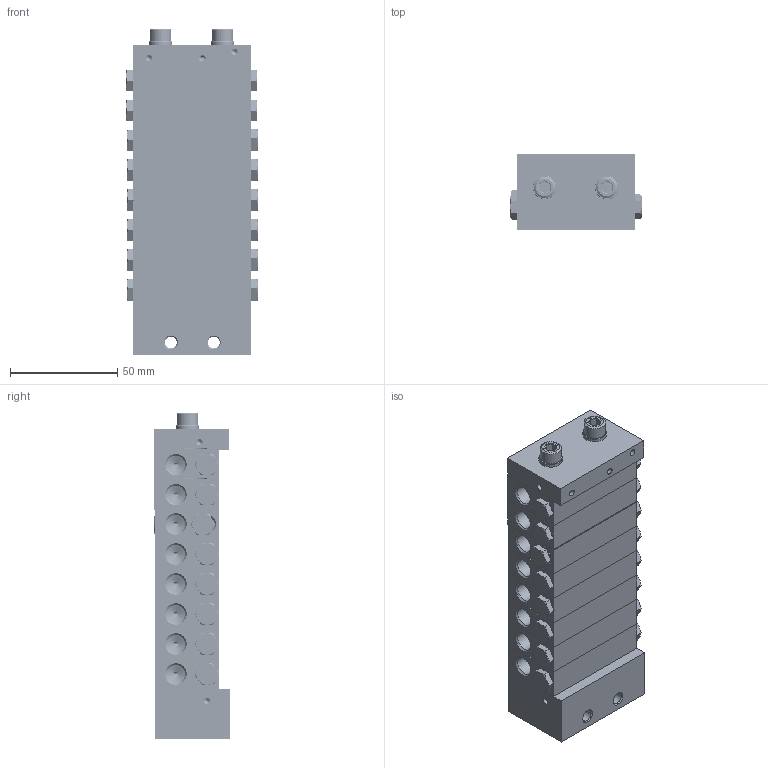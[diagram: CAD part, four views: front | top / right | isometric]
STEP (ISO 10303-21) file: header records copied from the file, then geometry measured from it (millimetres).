
FILE_DESCRIPTION (( 'STEP AP214' ), '1' );
FILE_NAME ('STW_XV_16_Auslässe.STEP', '2025-09-16T11:18:08', ( '' ), ( '' ), 'SwSTEP 2.0', 'SolidWorks 2022', '' );
FILE_SCHEMA (( 'AUTOMOTIVE_DESIGN' ));
Length unit declared in the file: millimetre
Products named in the file (10): STW_XV_16_Auslässe; STW_XV_Kolbenanschlag; STW_XV_MITTEL_1; O_RING_3X1; STW_XV_Verbindungsstopen; M6X65_DIN_912; Verschlussstopfen_1_8; STW_XV_ENGANG; STW_XV_END; U_Scheibe_6
Assembly tree (58 placements, depth 2):
  STW_XV_16_Auslässe
    STW_XV_ENGANG
    O_RING_3X1  x4
    STW_XV_MITTEL_1  x8
    STW_XV_END
    Verschlussstopfen_1_8  x16
    STW_XV_Kolbenanschlag  x16
    STW_XV_Verbindungsstopen  x8
    M6X65_DIN_912  x2
    U_Scheibe_6  x2
Bounding box: 61.32 x 35.03 x 152.48 mm (x, y, z)
Volume: 224928.8 mm3; surface area: 112419.5 mm2
Topology: 58 solids, 58 shells, 2269 faces, 6002 edges, 3844 vertices
Faces by surface type: plane 1052, cylinder 634, cone 467, bspline 116
Full cylindrical faces by diameter (mm): 2 x209, 3 x15, 5 x83, 5.5 x2, 5.9 x2, 6 x2, 6.2 x18, 6.4 x2, 6.5 x16, 7 x16, 8 x16, 8.4 x8, 8.6 x40, 9 x17, 9.7 x16, 9.73 x8, 10 x18, 11 x2, 15 x1
Entity records: 30016 total; most frequent: CARTESIAN_POINT 17209, ORIENTED_EDGE 2526, DIRECTION 2113, EDGE_CURVE 1263, VERTEX_POINT 896, EDGE_LOOP 821, AXIS2_PLACEMENT_3D 721, LINE 671
